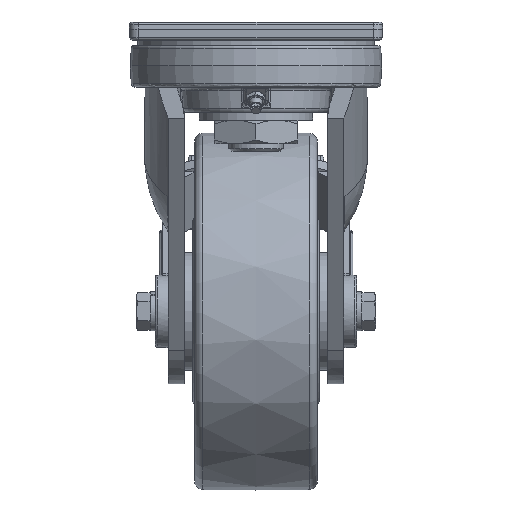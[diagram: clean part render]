
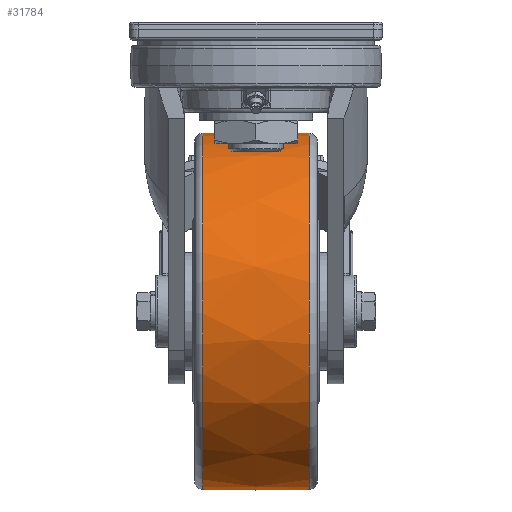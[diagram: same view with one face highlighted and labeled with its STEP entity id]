
A CAD part, left-side view. The second image highlights one B-rep face of the part: STEP entity #31784.
In plain terms, the highlighted free-form (B-spline) face has degree [2, 2] with [3, 9] control points.
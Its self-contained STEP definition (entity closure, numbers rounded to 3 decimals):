
#24=(
BOUNDED_SURFACE()
B_SPLINE_SURFACE(2,2,((#56218,#56219,#56220,#56221,#56222,#56223,#56224,
#56225,#56226),(#56227,#56228,#56229,#56230,#56231,#56232,#56233,#56234,
#56235),(#56236,#56237,#56238,#56239,#56240,#56241,#56242,#56243,#56244)),
 .UNSPECIFIED.,.F.,.T.,.F.)
B_SPLINE_SURFACE_WITH_KNOTS((3,3),(3,2,2,2,3),(-0.098,0.098),
(-3.142,-1.571,0.,1.571,3.142),
 .UNSPECIFIED.)
GEOMETRIC_REPRESENTATION_ITEM()
RATIONAL_B_SPLINE_SURFACE(((1.,0.707,1.,0.707,1.,
0.707,1.,0.707,1.),(0.995,0.704,
0.995,0.704,0.995,0.704,
0.995,0.704,0.995),(1.,0.707,
1.,0.707,1.,0.707,1.,0.707,1.)))
REPRESENTATION_ITEM('')
SURFACE()
);
#9249=FACE_OUTER_BOUND('',#11125,.T.);
#11125=EDGE_LOOP('',(#27066,#27067,#27068,#27069,#27070,#27071));
#12194=CIRCLE('',#33734,98.547);
#12195=CIRCLE('',#33735,98.547);
#12196=CIRCLE('',#33736,300.);
#12197=CIRCLE('',#33737,98.547);
#12198=CIRCLE('',#33738,98.547);
#14533=VERTEX_POINT('',#56213);
#14534=VERTEX_POINT('',#56215);
#14535=VERTEX_POINT('',#56245);
#14536=VERTEX_POINT('',#56247);
#18866=EDGE_CURVE('',#14533,#14534,#12194,.T.);
#18867=EDGE_CURVE('',#14534,#14533,#12195,.T.);
#18868=EDGE_CURVE('',#14533,#14535,#12196,.T.);
#18869=EDGE_CURVE('',#14535,#14536,#12197,.T.);
#18870=EDGE_CURVE('',#14536,#14535,#12198,.T.);
#27066=ORIENTED_EDGE('',*,*,#18867,.F.);
#27067=ORIENTED_EDGE('',*,*,#18866,.F.);
#27068=ORIENTED_EDGE('',*,*,#18868,.T.);
#27069=ORIENTED_EDGE('',*,*,#18869,.T.);
#27070=ORIENTED_EDGE('',*,*,#18870,.T.);
#27071=ORIENTED_EDGE('',*,*,#18868,.F.);
#31784=ADVANCED_FACE('',(#9249),#24,.F.);
#33734=AXIS2_PLACEMENT_3D('',#56216,#38934,#38935);
#33735=AXIS2_PLACEMENT_3D('',#56217,#38936,#38937);
#33736=AXIS2_PLACEMENT_3D('',#56246,#38938,#38939);
#33737=AXIS2_PLACEMENT_3D('',#56248,#38940,#38941);
#33738=AXIS2_PLACEMENT_3D('',#56249,#38942,#38943);
#38934=DIRECTION('center_axis',(0.,1.,0.));
#38935=DIRECTION('ref_axis',(0.86,0.,0.51));
#38936=DIRECTION('center_axis',(0.,1.,0.));
#38937=DIRECTION('ref_axis',(0.86,0.,0.51));
#38938=DIRECTION('center_axis',(0.51,0.,
-0.86));
#38939=DIRECTION('ref_axis',(0.86,0.,0.51));
#38940=DIRECTION('center_axis',(0.,1.,0.));
#38941=DIRECTION('ref_axis',(0.86,0.,0.51));
#38942=DIRECTION('center_axis',(0.,1.,0.));
#38943=DIRECTION('ref_axis',(0.86,0.,0.51));
#56213=CARTESIAN_POINT('',(159.783,29.492,-105.766));
#56215=CARTESIAN_POINT('',(-9.783,29.492,-206.233));
#56216=CARTESIAN_POINT('Origin',(75.,29.492,-156.));
#56217=CARTESIAN_POINT('Origin',(75.,29.492,-156.));
#56218=CARTESIAN_POINT('Ctrl Pts',(159.783,-29.492,-105.766));
#56219=CARTESIAN_POINT('Ctrl Pts',(210.016,-29.492,-190.549));
#56220=CARTESIAN_POINT('Ctrl Pts',(125.233,-29.492,-240.783));
#56221=CARTESIAN_POINT('Ctrl Pts',(40.451,-29.492,-291.016));
#56222=CARTESIAN_POINT('Ctrl Pts',(-9.783,-29.492,
-206.233));
#56223=CARTESIAN_POINT('Ctrl Pts',(-60.016,-29.492,
-121.451));
#56224=CARTESIAN_POINT('Ctrl Pts',(24.767,-29.492,-71.217));
#56225=CARTESIAN_POINT('Ctrl Pts',(109.549,-29.492,-20.984));
#56226=CARTESIAN_POINT('Ctrl Pts',(159.783,-29.492,-105.766));
#56227=CARTESIAN_POINT('Ctrl Pts',(162.289,0.,
-104.281));
#56228=CARTESIAN_POINT('Ctrl Pts',(214.007,0.,
-191.57));
#56229=CARTESIAN_POINT('Ctrl Pts',(126.718,0.,
-243.289));
#56230=CARTESIAN_POINT('Ctrl Pts',(39.429,0.,
-295.007));
#56231=CARTESIAN_POINT('Ctrl Pts',(-12.289,0.,
-207.718));
#56232=CARTESIAN_POINT('Ctrl Pts',(-64.007,0.,
-120.429));
#56233=CARTESIAN_POINT('Ctrl Pts',(23.282,0.,
-68.711));
#56234=CARTESIAN_POINT('Ctrl Pts',(110.571,0.,
-16.992));
#56235=CARTESIAN_POINT('Ctrl Pts',(162.289,0.,
-104.281));
#56236=CARTESIAN_POINT('Ctrl Pts',(159.783,29.492,-105.766));
#56237=CARTESIAN_POINT('Ctrl Pts',(210.016,29.492,-190.549));
#56238=CARTESIAN_POINT('Ctrl Pts',(125.233,29.492,-240.783));
#56239=CARTESIAN_POINT('Ctrl Pts',(40.451,29.492,-291.016));
#56240=CARTESIAN_POINT('Ctrl Pts',(-9.783,29.492,-206.233));
#56241=CARTESIAN_POINT('Ctrl Pts',(-60.016,29.492,-121.451));
#56242=CARTESIAN_POINT('Ctrl Pts',(24.767,29.492,-71.217));
#56243=CARTESIAN_POINT('Ctrl Pts',(109.549,29.492,-20.984));
#56244=CARTESIAN_POINT('Ctrl Pts',(159.783,29.492,-105.766));
#56245=CARTESIAN_POINT('',(159.783,-29.492,-105.766));
#56246=CARTESIAN_POINT('Origin',(-97.066,0.,
-257.948));
#56247=CARTESIAN_POINT('',(-9.783,-29.492,-206.233));
#56248=CARTESIAN_POINT('Origin',(75.,-29.492,-156.));
#56249=CARTESIAN_POINT('Origin',(75.,-29.492,-156.));
